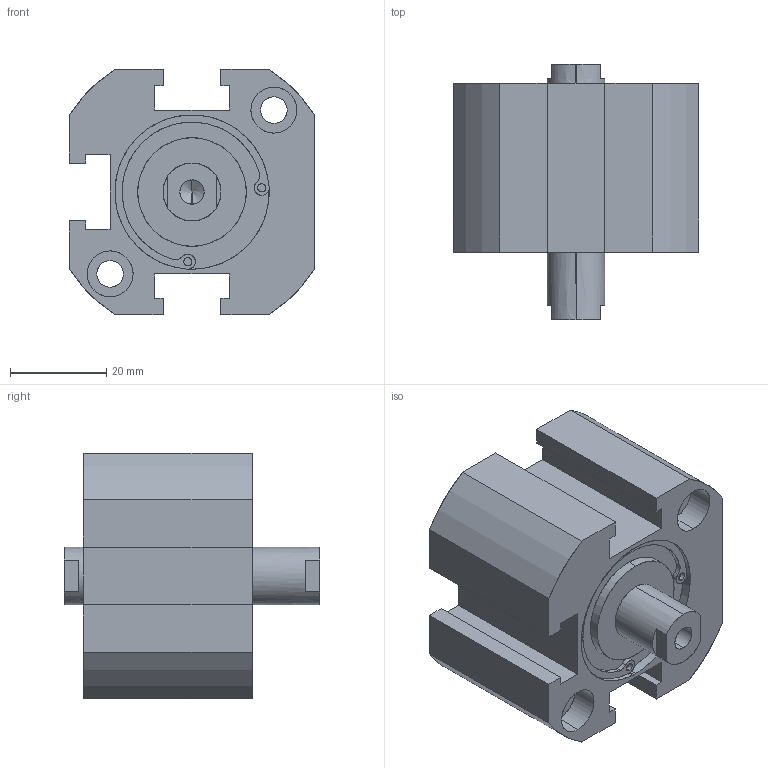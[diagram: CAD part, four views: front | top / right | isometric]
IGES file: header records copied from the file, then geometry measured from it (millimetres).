
Start section: SolidWorks IGES file using analytic representation for surfaces
Global section: file name: C:\Users\Toshiba\Desktop\XC#7-32-10.IGS; native system: SolidWorks 2014; preprocessor: SolidWorks 2014; author: Toshiba; date: 160523.162408; units: millimetre
Bounding box: 51 x 53 x 51 mm (x, y, z)
Surface area: 16828.1 mm2 (no closed solid volume)
Topology: 0 solids, 0 shells, 133 faces, 2116 edges, 2108 vertices
Faces by surface type: revolution 77, bspline 56
